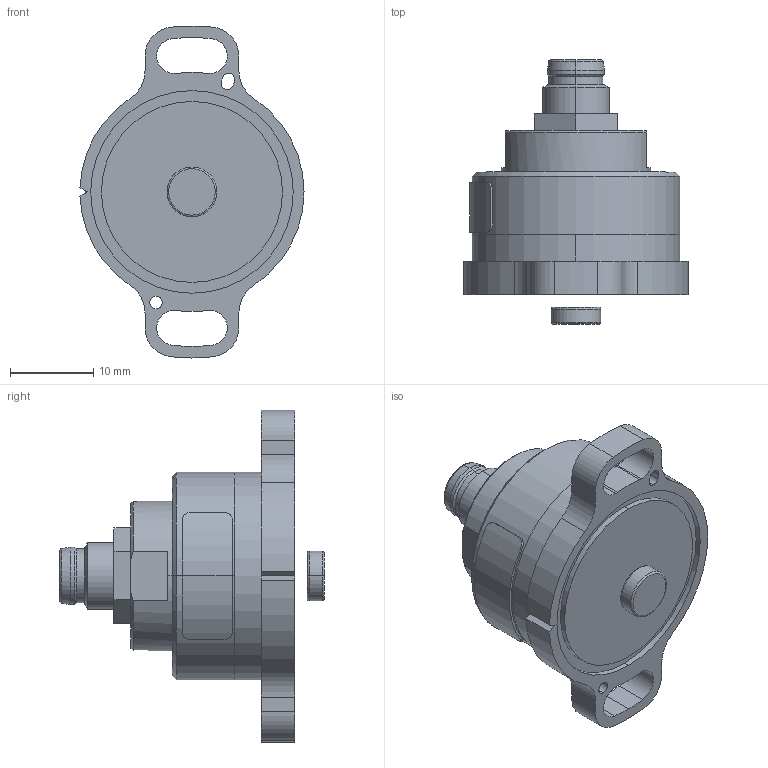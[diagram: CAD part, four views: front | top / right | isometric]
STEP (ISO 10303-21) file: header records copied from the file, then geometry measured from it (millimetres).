
FILE_DESCRIPTION (( 'STEP AP203' ), '1' );
FILE_NAME ('HTx Kit M8 S.STEP', '2022-07-29T10:28:38', ( '' ), ( '' ), 'SwSTEP 2.0', 'SolidWorks 2022', '' );
FILE_SCHEMA (( 'CONFIG_CONTROL_DESIGN' ));
Length unit declared in the file: millimetre
Products named in the file (1): HTx Kit M8 S
Bounding box: 26.99 x 31.8 x 39.98 mm (x, y, z)
Surface area: 3839.4 mm2 (no closed solid volume)
Topology: 0 solids, 13 shells, 148 faces, 392 edges, 249 vertices
Faces by surface type: cylinder 76, plane 37, bspline 19, cone 12, torus 4
Entity records: 4985 total; most frequent: CARTESIAN_POINT 1264, DIRECTION 825, ORIENTED_EDGE 707, EDGE_CURVE 376, AXIS2_PLACEMENT_3D 338, VERTEX_POINT 249, CIRCLE 208, EDGE_LOOP 166
